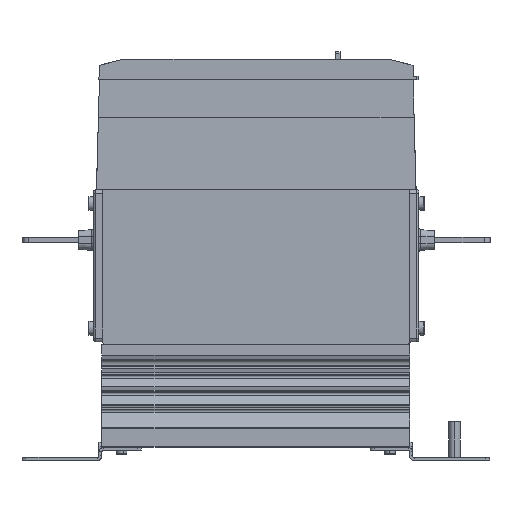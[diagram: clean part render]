
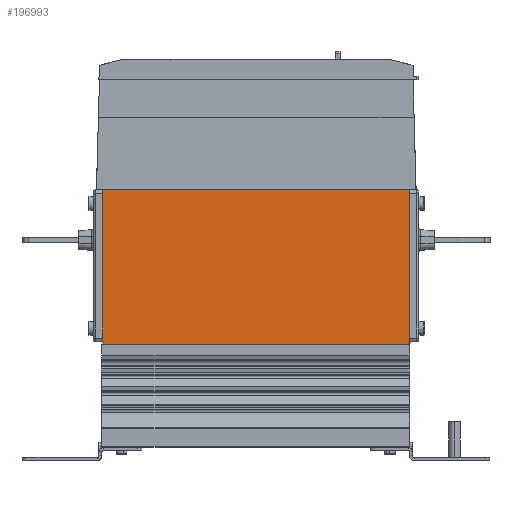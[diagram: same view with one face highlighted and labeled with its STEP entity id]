
A CAD part, left-side view. The second image highlights one B-rep face of the part: STEP entity #196993.
In plain terms, the highlighted planar face has unit normal (-1, 0, 0).
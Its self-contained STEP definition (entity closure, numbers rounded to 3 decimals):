
#6665 = CARTESIAN_POINT ( 'NONE',  ( 0., 158.5, -77.2 ) ) ;
#9709 = ORIENTED_EDGE ( 'NONE', *, *, #90638, .F. ) ;
#11638 = CARTESIAN_POINT ( 'NONE',  ( 0., 0., -79.2 ) ) ;
#12484 = VERTEX_POINT ( 'NONE', #41054 ) ;
#13598 = FACE_OUTER_BOUND ( 'NONE', #96768, .T. ) ;
#15707 = ORIENTED_EDGE ( 'NONE', *, *, #100133, .T. ) ;
#16143 = EDGE_CURVE ( 'NONE', #91175, #57811, #57053, .T. ) ;
#26289 = DIRECTION ( 'NONE',  ( 0., -1., 0. ) ) ;
#30249 = LINE ( 'NONE', #11638, #198049 ) ;
#31980 = DIRECTION ( 'NONE',  ( 0., 0., 1. ) ) ;
#39452 = VECTOR ( 'NONE', #100578, 1000. ) ;
#41054 = CARTESIAN_POINT ( 'NONE',  ( 0., 0., 0. ) ) ;
#43842 = CARTESIAN_POINT ( 'NONE',  ( 0., 158.5, 0. ) ) ;
#45359 = LINE ( 'NONE', #90259, #104411 ) ;
#48052 = CARTESIAN_POINT ( 'NONE',  ( 0., 2., -79.2 ) ) ;
#55371 = CARTESIAN_POINT ( 'NONE',  ( 0., 0., -77.2 ) ) ;
#55905 = VERTEX_POINT ( 'NONE', #48052 ) ;
#57053 = CIRCLE ( 'NONE', #141569, 2. ) ;
#57811 = VERTEX_POINT ( 'NONE', #160819 ) ;
#57999 = ORIENTED_EDGE ( 'NONE', *, *, #100489, .T. ) ;
#62762 = VECTOR ( 'NONE', #120686, 1000. ) ;
#63277 = ORIENTED_EDGE ( 'NONE', *, *, #118308, .T. ) ;
#64929 = DIRECTION ( 'NONE',  ( 0., 0., 1. ) ) ;
#68789 = ORIENTED_EDGE ( 'NONE', *, *, #16143, .T. ) ;
#72358 = AXIS2_PLACEMENT_3D ( 'NONE', #127582, #173114, #64929 ) ;
#77828 = DIRECTION ( 'NONE',  ( -1., 0., 0. ) ) ;
#81392 = LINE ( 'NONE', #194409, #39452 ) ;
#88166 = DIRECTION ( 'NONE',  ( 0., 0., 1. ) ) ;
#90259 = CARTESIAN_POINT ( 'NONE',  ( 0., 0., 0. ) ) ;
#90638 = EDGE_CURVE ( 'NONE', #91175, #91322, #81392, .T. ) ;
#91175 = VERTEX_POINT ( 'NONE', #6665 ) ;
#91322 = VERTEX_POINT ( 'NONE', #43842 ) ;
#92674 = CARTESIAN_POINT ( 'NONE',  ( 0., 156.5, -77.2 ) ) ;
#96768 = EDGE_LOOP ( 'NONE', ( #15707, #63277, #57999, #105325, #9709, #68789 ) ) ;
#97090 = LINE ( 'NONE', #152444, #62762 ) ;
#100133 = EDGE_CURVE ( 'NONE', #57811, #55905, #97090, .T. ) ;
#100489 = EDGE_CURVE ( 'NONE', #102711, #12484, #30249, .T. ) ;
#100578 = DIRECTION ( 'NONE',  ( 0., 0., 1. ) ) ;
#102711 = VERTEX_POINT ( 'NONE', #55371 ) ;
#104411 = VECTOR ( 'NONE', #26289, 1000. ) ;
#105325 = ORIENTED_EDGE ( 'NONE', *, *, #124438, .F. ) ;
#107483 = DIRECTION ( 'NONE',  ( 0., 0., 1. ) ) ;
#118308 = EDGE_CURVE ( 'NONE', #55905, #102711, #140717, .T. ) ;
#120686 = DIRECTION ( 'NONE',  ( 0., -1., 0. ) ) ;
#124030 = PLANE ( 'NONE',  #128615 ) ;
#124346 = DIRECTION ( 'NONE',  ( -1., 0., 0. ) ) ;
#124438 = EDGE_CURVE ( 'NONE', #91322, #12484, #45359, .T. ) ;
#127582 = CARTESIAN_POINT ( 'NONE',  ( 0., 2., -77.2 ) ) ;
#128615 = AXIS2_PLACEMENT_3D ( 'NONE', #156446, #77828, #107483 ) ;
#140717 = CIRCLE ( 'NONE', #72358, 2. ) ;
#141569 = AXIS2_PLACEMENT_3D ( 'NONE', #92674, #124346, #31980 ) ;
#152444 = CARTESIAN_POINT ( 'NONE',  ( 0., 0., -79.2 ) ) ;
#156446 = CARTESIAN_POINT ( 'NONE',  ( 0., 0., -79.2 ) ) ;
#160819 = CARTESIAN_POINT ( 'NONE',  ( 0., 156.5, -79.2 ) ) ;
#173114 = DIRECTION ( 'NONE',  ( -1., 0., 0. ) ) ;
#194409 = CARTESIAN_POINT ( 'NONE',  ( 0., 158.5, -79.2 ) ) ;
#196993 = ADVANCED_FACE ( 'NONE', ( #13598 ), #124030, .T. ) ;
#198049 = VECTOR ( 'NONE', #88166, 1000. ) ;
